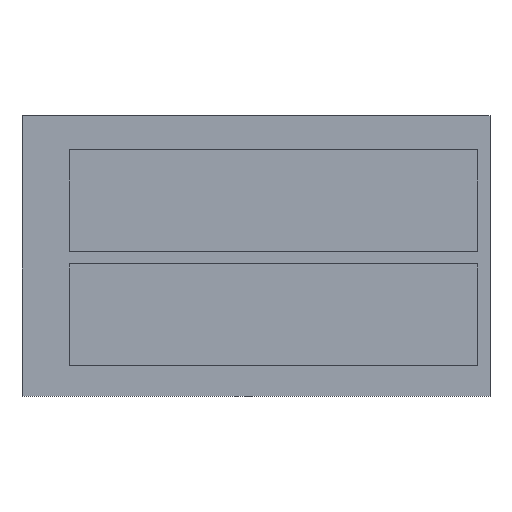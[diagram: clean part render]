
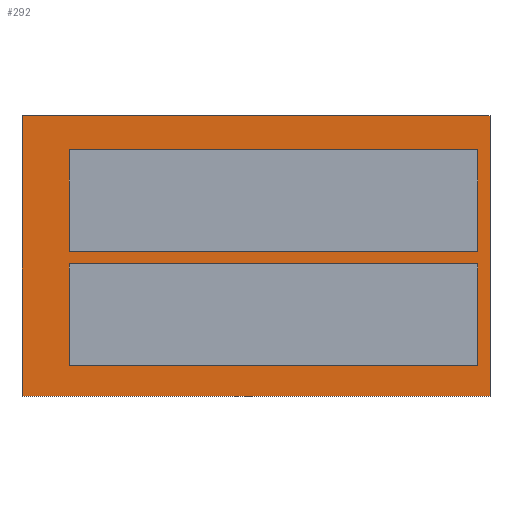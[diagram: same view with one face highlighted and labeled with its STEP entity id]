
A CAD part, top view. The second image highlights one B-rep face of the part: STEP entity #292.
In plain terms, the highlighted planar face has unit normal (0, 0, 1).
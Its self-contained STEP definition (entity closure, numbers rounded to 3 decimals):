
#17 = LINE ( 'NONE', #716, #1091 ) ;
#24 = CARTESIAN_POINT ( 'NONE',  ( -3.275, 0.072, 0. ) ) ;
#93 = VECTOR ( 'NONE', #312, 1000. ) ;
#115 = CARTESIAN_POINT ( 'NONE',  ( -4.03, -2.25, 0. ) ) ;
#139 = EDGE_CURVE ( 'NONE', #2076, #2022, #495, .T. ) ;
#143 = VERTEX_POINT ( 'NONE', #421 ) ;
#186 = ORIENTED_EDGE ( 'NONE', *, *, #1271, .F. ) ;
#193 = DIRECTION ( 'NONE',  ( 0., -1., 0. ) ) ;
#195 = EDGE_CURVE ( 'NONE', #2086, #1570, #2125, .T. ) ;
#229 = EDGE_LOOP ( 'NONE', ( #1522, #254, #2196, #977 ) ) ;
#246 = VERTEX_POINT ( 'NONE', #1434 ) ;
#254 = ORIENTED_EDGE ( 'NONE', *, *, #1809, .F. ) ;
#266 = VERTEX_POINT ( 'NONE', #1288 ) ;
#271 = DIRECTION ( 'NONE',  ( 0., 1., 0. ) ) ;
#292 = ADVANCED_FACE ( 'NONE', ( #2084, #1281, #1113 ), #1654, .T. ) ;
#306 = VERTEX_POINT ( 'NONE', #1979 ) ;
#311 = VECTOR ( 'NONE', #1825, 1000. ) ;
#312 = DIRECTION ( 'NONE',  ( 0., -1., 0. ) ) ;
#319 = CARTESIAN_POINT ( 'NONE',  ( 3.275, 1.702, 0. ) ) ;
#337 = LINE ( 'NONE', #1785, #2016 ) ;
#351 = ORIENTED_EDGE ( 'NONE', *, *, #139, .F. ) ;
#366 = LINE ( 'NONE', #1566, #1043 ) ;
#372 = ORIENTED_EDGE ( 'NONE', *, *, #1486, .F. ) ;
#417 = VECTOR ( 'NONE', #1204, 1000. ) ;
#421 = CARTESIAN_POINT ( 'NONE',  ( 3.275, -0.128, 0. ) ) ;
#424 = EDGE_LOOP ( 'NONE', ( #607, #1114, #351, #2051 ) ) ;
#434 = DIRECTION ( 'NONE',  ( 1., 0., 0. ) ) ;
#473 = CARTESIAN_POINT ( 'NONE',  ( 3.47, 2.25, 0. ) ) ;
#477 = CARTESIAN_POINT ( 'NONE',  ( -3.275, 0.072, 0. ) ) ;
#489 = DIRECTION ( 'NONE',  ( -1., 0., 0. ) ) ;
#495 = LINE ( 'NONE', #583, #1402 ) ;
#529 = ORIENTED_EDGE ( 'NONE', *, *, #2008, .F. ) ;
#583 = CARTESIAN_POINT ( 'NONE',  ( 3.275, 0.072, 0. ) ) ;
#607 = ORIENTED_EDGE ( 'NONE', *, *, #996, .F. ) ;
#628 = AXIS2_PLACEMENT_3D ( 'NONE', #2148, #2170, #783 ) ;
#635 = VECTOR ( 'NONE', #653, 1000. ) ;
#637 = CARTESIAN_POINT ( 'NONE',  ( -3.275, -0.128, 0. ) ) ;
#652 = LINE ( 'NONE', #2223, #417 ) ;
#653 = DIRECTION ( 'NONE',  ( 1., 0., 0. ) ) ;
#711 = CARTESIAN_POINT ( 'NONE',  ( -3.275, -0.128, 0. ) ) ;
#716 = CARTESIAN_POINT ( 'NONE',  ( -3.275, 1.702, 0. ) ) ;
#749 = ORIENTED_EDGE ( 'NONE', *, *, #2073, .F. ) ;
#783 = DIRECTION ( 'NONE',  ( 1., 0., 0. ) ) ;
#789 = LINE ( 'NONE', #2035, #1648 ) ;
#816 = VECTOR ( 'NONE', #434, 1000. ) ;
#865 = CARTESIAN_POINT ( 'NONE',  ( -3.275, -1.758, 0. ) ) ;
#875 = EDGE_CURVE ( 'NONE', #2123, #2076, #1720, .T. ) ;
#885 = VECTOR ( 'NONE', #193, 1000. ) ;
#887 = LINE ( 'NONE', #1694, #93 ) ;
#918 = CARTESIAN_POINT ( 'NONE',  ( -3.275, -1.758, 0. ) ) ;
#927 = VERTEX_POINT ( 'NONE', #473 ) ;
#973 = DIRECTION ( 'NONE',  ( 1., 0., 0. ) ) ;
#977 = ORIENTED_EDGE ( 'NONE', *, *, #1706, .F. ) ;
#996 = EDGE_CURVE ( 'NONE', #266, #2123, #1812, .T. ) ;
#1043 = VECTOR ( 'NONE', #1581, 1000. ) ;
#1054 = EDGE_LOOP ( 'NONE', ( #372, #186, #529, #749 ) ) ;
#1091 = VECTOR ( 'NONE', #2067, 1000. ) ;
#1113 = FACE_BOUND ( 'NONE', #229, .T. ) ;
#1114 = ORIENTED_EDGE ( 'NONE', *, *, #1148, .F. ) ;
#1133 = CARTESIAN_POINT ( 'NONE',  ( 3.275, -1.758, 0. ) ) ;
#1148 = EDGE_CURVE ( 'NONE', #2022, #266, #17, .T. ) ;
#1175 = CARTESIAN_POINT ( 'NONE',  ( 3.275, 0.072, 0. ) ) ;
#1204 = DIRECTION ( 'NONE',  ( 0., 1., 0. ) ) ;
#1271 = EDGE_CURVE ( 'NONE', #306, #246, #337, .T. ) ;
#1281 = FACE_BOUND ( 'NONE', #424, .T. ) ;
#1288 = CARTESIAN_POINT ( 'NONE',  ( -3.275, 1.702, 0. ) ) ;
#1342 = VECTOR ( 'NONE', #489, 1000. ) ;
#1402 = VECTOR ( 'NONE', #271, 1000. ) ;
#1434 = CARTESIAN_POINT ( 'NONE',  ( -4.03, -2.25, 0. ) ) ;
#1486 = EDGE_CURVE ( 'NONE', #246, #1926, #1622, .T. ) ;
#1522 = ORIENTED_EDGE ( 'NONE', *, *, #195, .F. ) ;
#1566 = CARTESIAN_POINT ( 'NONE',  ( -3.275, -1.758, 0. ) ) ;
#1570 = VERTEX_POINT ( 'NONE', #1133 ) ;
#1581 = DIRECTION ( 'NONE',  ( 0., -1., 0. ) ) ;
#1622 = LINE ( 'NONE', #115, #311 ) ;
#1648 = VECTOR ( 'NONE', #973, 1000. ) ;
#1654 = PLANE ( 'NONE',  #628 ) ;
#1694 = CARTESIAN_POINT ( 'NONE',  ( 3.47, -2.25, 0. ) ) ;
#1706 = EDGE_CURVE ( 'NONE', #1570, #143, #652, .T. ) ;
#1720 = LINE ( 'NONE', #477, #635 ) ;
#1747 = CARTESIAN_POINT ( 'NONE',  ( -3.275, 0.072, 0. ) ) ;
#1785 = CARTESIAN_POINT ( 'NONE',  ( 3.47, -2.25, 0. ) ) ;
#1792 = DIRECTION ( 'NONE',  ( -1., 0., 0. ) ) ;
#1809 = EDGE_CURVE ( 'NONE', #2140, #2086, #366, .T. ) ;
#1812 = LINE ( 'NONE', #24, #885 ) ;
#1825 = DIRECTION ( 'NONE',  ( 0., 1., 0. ) ) ;
#1910 = LINE ( 'NONE', #637, #1342 ) ;
#1926 = VERTEX_POINT ( 'NONE', #2192 ) ;
#1973 = EDGE_CURVE ( 'NONE', #143, #2140, #1910, .T. ) ;
#1979 = CARTESIAN_POINT ( 'NONE',  ( 3.47, -2.25, 0. ) ) ;
#2008 = EDGE_CURVE ( 'NONE', #927, #306, #887, .T. ) ;
#2016 = VECTOR ( 'NONE', #1792, 1000. ) ;
#2022 = VERTEX_POINT ( 'NONE', #319 ) ;
#2035 = CARTESIAN_POINT ( 'NONE',  ( 3.47, 2.25, 0. ) ) ;
#2051 = ORIENTED_EDGE ( 'NONE', *, *, #875, .F. ) ;
#2067 = DIRECTION ( 'NONE',  ( -1., 0., 0. ) ) ;
#2073 = EDGE_CURVE ( 'NONE', #1926, #927, #789, .T. ) ;
#2076 = VERTEX_POINT ( 'NONE', #1175 ) ;
#2084 = FACE_OUTER_BOUND ( 'NONE', #1054, .T. ) ;
#2086 = VERTEX_POINT ( 'NONE', #865 ) ;
#2123 = VERTEX_POINT ( 'NONE', #1747 ) ;
#2125 = LINE ( 'NONE', #918, #816 ) ;
#2140 = VERTEX_POINT ( 'NONE', #711 ) ;
#2148 = CARTESIAN_POINT ( 'NONE',  ( 0., 0., 0. ) ) ;
#2170 = DIRECTION ( 'NONE',  ( 0., 0., 1. ) ) ;
#2192 = CARTESIAN_POINT ( 'NONE',  ( -4.03, 2.25, 0. ) ) ;
#2196 = ORIENTED_EDGE ( 'NONE', *, *, #1973, .F. ) ;
#2223 = CARTESIAN_POINT ( 'NONE',  ( 3.275, -1.758, 0. ) ) ;
